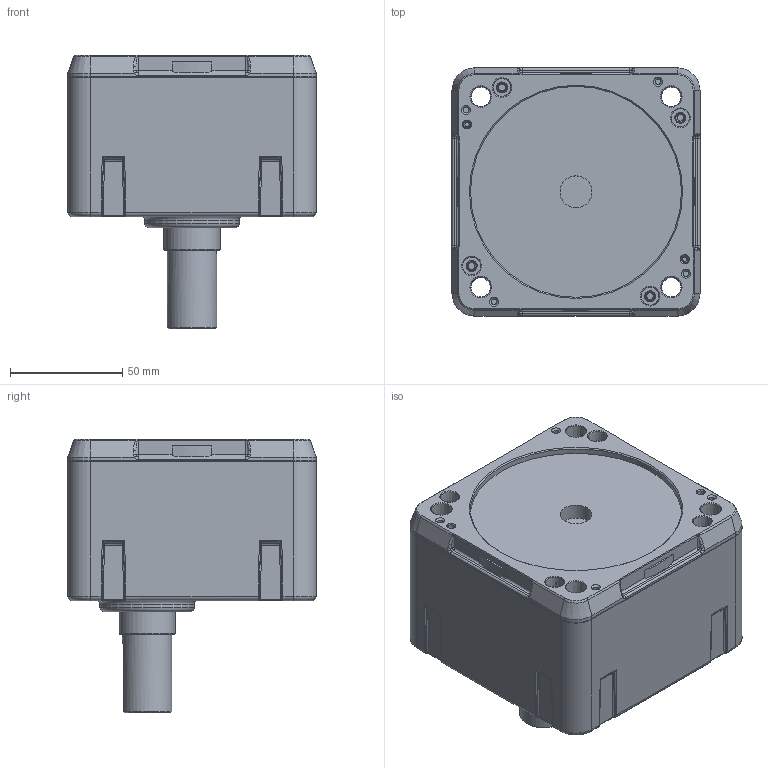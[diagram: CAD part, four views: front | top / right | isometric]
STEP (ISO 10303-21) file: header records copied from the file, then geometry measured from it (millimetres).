
FILE_DESCRIPTION((''),'2;1');
FILE_NAME('C:\Users\LEEKA\Desktop\110각 감속기 3D(STEP)\K10H30-50BU.stp','2017-04-05T13:52:33',('LEEKA'),(''),'Autodesk Inventor 2012','Autodesk Inventor 2012','');
FILE_SCHEMA(('AUTOMOTIVE_DESIGN { 1 0 10303 214 1 1 1 1 }'));
Length unit declared in the file: millimetre
Products named in the file (3): K10H30-50BU; CASE(M)-STEP; COVER-STEP
Assembly tree (2 placements, depth 2):
  K10H30-50BU
    CASE(M)-STEP
    COVER-STEP
Bounding box: 110.5 x 110.5 x 122 mm (x, y, z)
Volume: 836639.5 mm3; surface area: 94376 mm2
Topology: 2 solids, 3 shells, 534 faces, 1262 edges, 725 vertices
Faces by surface type: cylinder 190, plane 127, bspline 120, cone 68, torus 21, sphere 8
Full cylindrical faces by diameter (mm): 2.459 x4, 3 x2, 4.917 x1, 14.244 x1, 22 x1, 25 x1, 27 x1, 34 x1, 42 x1, 94 x1, 100 x1
Entity records: 17641 total; most frequent: CARTESIAN_POINT 6106, DIRECTION 2382, ORIENTED_EDGE 2264, EDGE_CURVE 1132, AXIS2_PLACEMENT_3D 978, VERTEX_POINT 708, EDGE_LOOP 676, FACE_OUTER_BOUND 534
